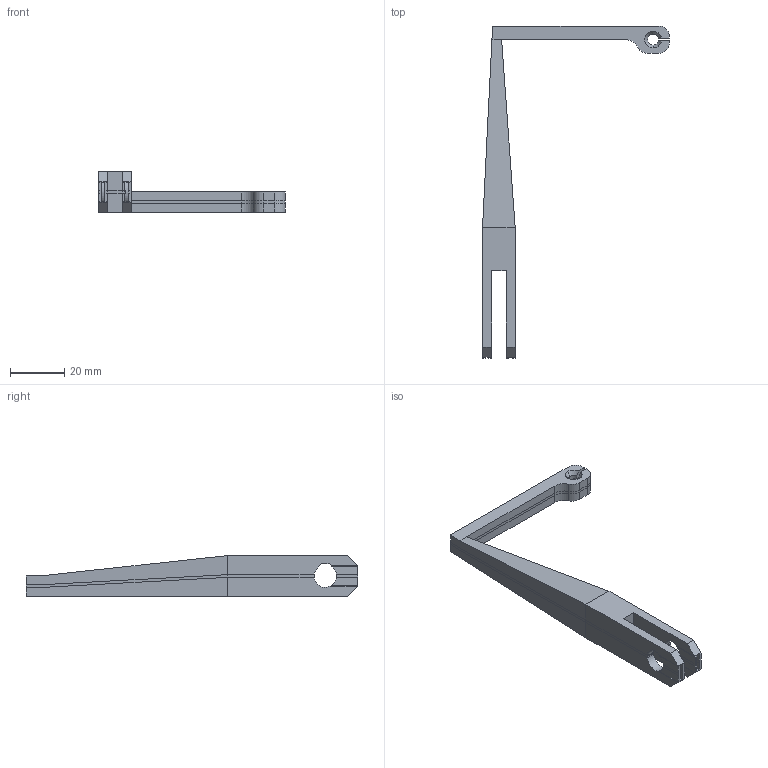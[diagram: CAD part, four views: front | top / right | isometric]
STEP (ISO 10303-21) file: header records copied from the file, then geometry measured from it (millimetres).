
FILE_DESCRIPTION (( 'STEP AP214' ), '1' );
FILE_NAME ('TubeHolder_v3.2.STEP', '2019-03-31T19:11:13', ( '' ), ( '' ), 'SwSTEP 2.0', 'SolidWorks 2018', '' );
FILE_SCHEMA (( 'AUTOMOTIVE_DESIGN' ));
Length unit declared in the file: millimetre
Products named in the file (1): TubeHolder_v3.2
Bounding box: 68.7 x 122 x 15 mm (x, y, z)
Volume: 14497.4 mm3; surface area: 11026.4 mm2
Topology: 9 solids, 9 shells, 227 faces, 608 edges, 399 vertices
Faces by surface type: plane 170, cylinder 51, cone 6
Entity records: 7168 total; most frequent: CARTESIAN_POINT 1247, ORIENTED_EDGE 1216, DIRECTION 1192, EDGE_CURVE 608, LINE 472, VECTOR 472, VERTEX_POINT 399, AXIS2_PLACEMENT_3D 360
